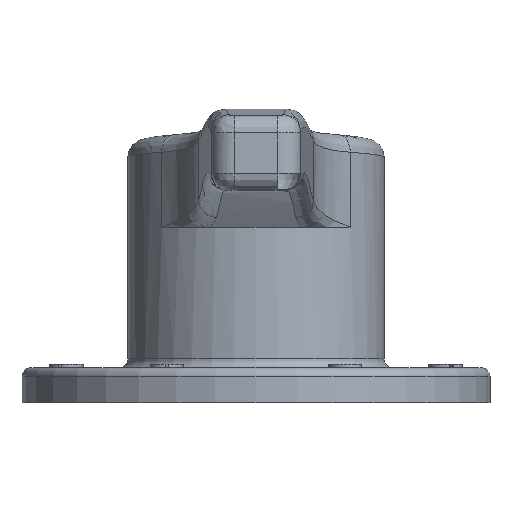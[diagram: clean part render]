
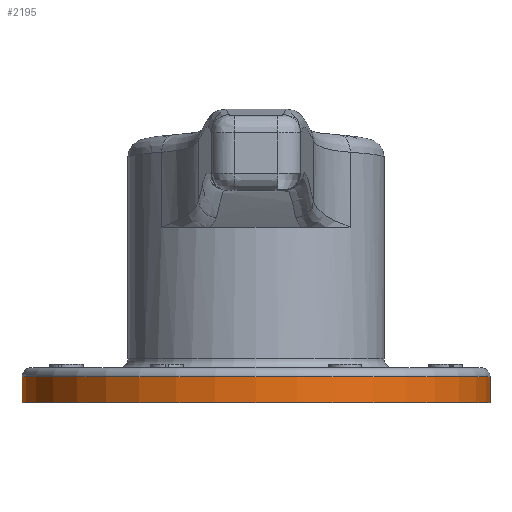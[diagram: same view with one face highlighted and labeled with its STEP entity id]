
A CAD part, left-side view. The second image highlights one B-rep face of the part: STEP entity #2195.
In plain terms, the highlighted cylindrical face has radius 6.668 mm (diameter 13.335 mm), a full revolution.
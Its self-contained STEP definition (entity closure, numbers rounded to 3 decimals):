
#320=FACE_OUTER_BOUND('',#467,.T.);
#467=EDGE_LOOP('',(#1763,#1764,#1765,#1766));
#630=LINE('',#3417,#750);
#750=VECTOR('',#2877,6.668);
#842=CIRCLE('',#2422,6.668);
#843=CIRCLE('',#2424,6.668);
#984=VERTEX_POINT('',#3412);
#985=VERTEX_POINT('',#3416);
#1260=EDGE_CURVE('',#984,#984,#842,.T.);
#1261=EDGE_CURVE('',#984,#985,#630,.T.);
#1262=EDGE_CURVE('',#985,#985,#843,.T.);
#1763=ORIENTED_EDGE('',*,*,#1260,.F.);
#1764=ORIENTED_EDGE('',*,*,#1261,.T.);
#1765=ORIENTED_EDGE('',*,*,#1262,.T.);
#1766=ORIENTED_EDGE('',*,*,#1261,.F.);
#2108=CYLINDRICAL_SURFACE('',#2423,6.668);
#2195=ADVANCED_FACE('',(#320),#2108,.T.);
#2422=AXIS2_PLACEMENT_3D('',#3414,#2873,#2874);
#2423=AXIS2_PLACEMENT_3D('',#3415,#2875,#2876);
#2424=AXIS2_PLACEMENT_3D('',#3418,#2878,#2879);
#2873=DIRECTION('center_axis',(0.,0.,1.));
#2874=DIRECTION('ref_axis',(0.973,-0.232,0.));
#2875=DIRECTION('center_axis',(0.,0.,1.));
#2876=DIRECTION('ref_axis',(1.,0.,0.));
#2877=DIRECTION('',(0.,0.,-1.));
#2878=DIRECTION('center_axis',(0.,0.,1.));
#2879=DIRECTION('ref_axis',(1.,0.,0.));
#3412=CARTESIAN_POINT('',(-6.668,0.,0.75));
#3414=CARTESIAN_POINT('Origin',(0.,0.,0.75));
#3415=CARTESIAN_POINT('Origin',(0.,0.,0.));
#3416=CARTESIAN_POINT('',(-6.668,0.,0.));
#3417=CARTESIAN_POINT('',(-6.668,0.,0.));
#3418=CARTESIAN_POINT('Origin',(0.,0.,0.));
